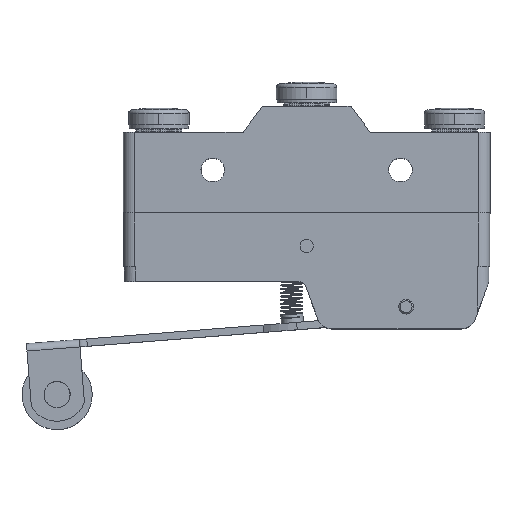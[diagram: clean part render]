
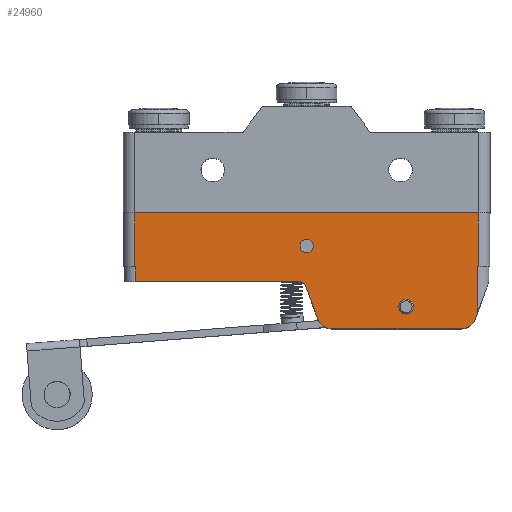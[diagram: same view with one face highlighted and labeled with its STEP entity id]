
A CAD part, top view. The second image highlights one B-rep face of the part: STEP entity #24960.
In plain terms, the highlighted planar face has unit normal (0, 0, 1).
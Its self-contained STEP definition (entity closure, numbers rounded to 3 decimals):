
#9036=CARTESIAN_POINT('',(971.554,-133.428,-3.81));
#9037=DIRECTION('',(0.,0.,1.));
#9038=DIRECTION('',(0.,-1.,0.));
#9039=AXIS2_PLACEMENT_3D('',#9036,#9037,#9038);
#9041=CARTESIAN_POINT('',(971.554,-133.428,-3.81));
#9042=DIRECTION('',(0.,0.,1.));
#9043=DIRECTION('',(0.,1.,0.));
#9044=AXIS2_PLACEMENT_3D('',#9041,#9042,#9043);
#9046=CARTESIAN_POINT('',(629.92,74.852,-3.81));
#9047=DIRECTION('',(0.,0.,1.));
#9048=DIRECTION('',(-1.,0.,0.));
#9049=AXIS2_PLACEMENT_3D('',#9046,#9047,#9048);
#9051=CARTESIAN_POINT('',(629.92,74.852,-3.81));
#9052=DIRECTION('',(0.,0.,1.));
#9053=DIRECTION('',(1.,0.,0.));
#9054=AXIS2_PLACEMENT_3D('',#9051,#9052,#9053);
#9056=CARTESIAN_POINT('',(1219.077,3.732,-3.819));
#9057=CARTESIAN_POINT('',(1218.887,3.732,-3.819));
#9058=CARTESIAN_POINT('',(1218.507,3.732,-3.806));
#9059=CARTESIAN_POINT('',(1218.125,3.732,-3.81));
#9060=CARTESIAN_POINT('',(1217.934,3.732,-3.81));
#9062=DIRECTION('',(-0.342,-0.94,0.));
#9063=VECTOR('',#9062,26.025);
#9064=CARTESIAN_POINT('',(1217.934,-151.747,-3.81));
#9065=LINE('',#9064,#9063);
#9066=CARTESIAN_POINT('',(1161.296,-158.828,-3.81));
#9067=DIRECTION('',(0.,0.,-1.));
#9068=DIRECTION('',(0.94,-0.342,0.));
#9069=AXIS2_PLACEMENT_3D('',#9066,#9067,#9068);
#9071=DIRECTION('',(-1.,0.,0.));
#9072=VECTOR('',#9071,445.525);
#9073=CARTESIAN_POINT('',(1161.296,-209.628,-3.81));
#9074=LINE('',#9073,#9072);
#9075=CARTESIAN_POINT('',(715.772,-158.828,-3.81));
#9076=DIRECTION('',(0.,0.,-1.));
#9077=DIRECTION('',(0.,-1.,0.));
#9078=AXIS2_PLACEMENT_3D('',#9075,#9076,#9077);
#9080=DIRECTION('',(-0.342,0.94,0.));
#9081=VECTOR('',#9080,119.637);
#9082=CARTESIAN_POINT('',(668.035,-176.203,-3.81));
#9083=LINE('',#9082,#9081);
#9084=CARTESIAN_POINT('',(603.249,-72.468,-3.81));
#9085=DIRECTION('',(0.,0.,1.));
#9086=DIRECTION('',(0.94,0.342,0.));
#9087=AXIS2_PLACEMENT_3D('',#9084,#9085,#9086);
#9089=DIRECTION('',(-1.,0.,0.));
#9090=VECTOR('',#9089,561.335);
#9091=CARTESIAN_POINT('',(603.249,-47.068,-3.81));
#9092=LINE('',#9091,#9090);
#9093=CARTESIAN_POINT('',(41.914,3.732,-3.81));
#9094=CARTESIAN_POINT('',(41.722,3.732,-3.81));
#9095=CARTESIAN_POINT('',(41.339,3.732,-3.806));
#9096=CARTESIAN_POINT('',(40.957,3.732,-3.819));
#9097=CARTESIAN_POINT('',(40.767,3.732,-3.819));
#9099=CARTESIAN_POINT('',(40.767,3.732,-3.819));
#9100=CARTESIAN_POINT('',(40.578,3.732,-3.819));
#9101=CARTESIAN_POINT('',(40.197,3.732,-3.793));
#9102=CARTESIAN_POINT('',(39.817,3.732,-3.836));
#9103=CARTESIAN_POINT('',(39.626,3.732,-3.836));
#9105=DIRECTION('',(1.,0.,0.));
#9106=VECTOR('',#9105,1180.592);
#9107=CARTESIAN_POINT('',(39.624,189.152,-3.81));
#9108=LINE('',#9107,#9106);
#9109=CARTESIAN_POINT('',(1220.214,3.732,-3.836));
#9110=CARTESIAN_POINT('',(1220.023,3.732,-3.836));
#9111=CARTESIAN_POINT('',(1219.645,3.732,-3.793));
#9112=CARTESIAN_POINT('',(1219.266,3.732,-3.819));
#9113=CARTESIAN_POINT('',(1219.077,3.732,-3.819));
#9179=DIRECTION('',(0.,1.,0.));
#9180=VECTOR('',#9179,155.479);
#9181=CARTESIAN_POINT('',(1217.934,-151.747,-3.81));
#9182=LINE('',#9181,#9180);
#9267=DIRECTION('',(0.,1.,0.));
#9268=VECTOR('',#9267,185.42);
#9269=CARTESIAN_POINT('',(1220.214,3.732,-3.836));
#9270=LINE('',#9269,#9268);
#9446=DIRECTION('',(0.,-1.,0.));
#9447=VECTOR('',#9446,50.8);
#9448=CARTESIAN_POINT('',(41.914,3.732,-3.81));
#9449=LINE('',#9448,#9447);
#13549=DIRECTION('',(0.,-1.,0.));
#13550=VECTOR('',#13549,185.42);
#13551=CARTESIAN_POINT('',(39.624,189.152,-3.81));
#13552=LINE('',#13551,#13550);
#14073=CARTESIAN_POINT('',(39.624,189.152,-3.81));
#14074=CARTESIAN_POINT('',(1220.216,189.152,-3.81));
#14075=VERTEX_POINT('',#14073);
#14076=VERTEX_POINT('',#14074);
#15105=CARTESIAN_POINT('',(607.06,74.852,-3.81));
#15106=CARTESIAN_POINT('',(652.78,74.852,-3.81));
#15107=VERTEX_POINT('',#15105);
#15108=VERTEX_POINT('',#15106);
#15354=CARTESIAN_POINT('',(41.914,-47.068,-3.81));
#15355=VERTEX_POINT('',#15354);
#15356=CARTESIAN_POINT('',(603.249,-47.068,-3.81));
#15357=VERTEX_POINT('',#15356);
#15358=CARTESIAN_POINT('',(627.117,-63.781,-3.81));
#15359=VERTEX_POINT('',#15358);
#15360=CARTESIAN_POINT('',(1217.934,-151.747,-3.81));
#15361=CARTESIAN_POINT('',(1209.033,-176.203,-3.81));
#15362=VERTEX_POINT('',#15360);
#15363=VERTEX_POINT('',#15361);
#15364=CARTESIAN_POINT('',(1161.296,-209.628,-3.81));
#15365=VERTEX_POINT('',#15364);
#15366=CARTESIAN_POINT('',(715.772,-209.628,-3.81));
#15367=VERTEX_POINT('',#15366);
#15368=CARTESIAN_POINT('',(668.035,-176.203,-3.81));
#15369=VERTEX_POINT('',#15368);
#15370=CARTESIAN_POINT('',(971.554,-158.828,-3.81));
#15371=CARTESIAN_POINT('',(971.554,-108.028,-3.81));
#15372=VERTEX_POINT('',#15370);
#15373=VERTEX_POINT('',#15371);
#15894=CARTESIAN_POINT('',(1220.212,3.732,
-3.878));
#15896=VERTEX_POINT('',#15894);
#15897=VERTEX_POINT('',#9113);
#15898=VERTEX_POINT('',#9060);
#15913=VERTEX_POINT('',#9093);
#15914=VERTEX_POINT('',#9097);
#15915=VERTEX_POINT('',#9103);
#24910=CARTESIAN_POINT('',(629.92,96.442,-3.81));
#24911=DIRECTION('',(0.,0.,1.));
#24912=DIRECTION('',(-1.,0.,0.));
#24913=AXIS2_PLACEMENT_3D('',#24910,#24911,#24912);
#24914=PLANE('',#24913);
#24916=ORIENTED_EDGE('',*,*,#24915,.T.);
#24918=ORIENTED_EDGE('',*,*,#24917,.F.);
#24920=ORIENTED_EDGE('',*,*,#24919,.T.);
#24922=ORIENTED_EDGE('',*,*,#24921,.T.);
#24924=ORIENTED_EDGE('',*,*,#24923,.T.);
#24926=ORIENTED_EDGE('',*,*,#24925,.T.);
#24928=ORIENTED_EDGE('',*,*,#24927,.T.);
#24930=ORIENTED_EDGE('',*,*,#24929,.T.);
#24932=ORIENTED_EDGE('',*,*,#24931,.T.);
#24934=ORIENTED_EDGE('',*,*,#24933,.F.);
#24936=ORIENTED_EDGE('',*,*,#24935,.T.);
#24938=ORIENTED_EDGE('',*,*,#24937,.T.);
#24940=ORIENTED_EDGE('',*,*,#24939,.F.);
#24941=ORIENTED_EDGE('',*,*,#16028,.T.);
#24943=ORIENTED_EDGE('',*,*,#24942,.F.);
#24945=ORIENTED_EDGE('',*,*,#24944,.T.);
#24946=EDGE_LOOP('',(#24916,#24918,#24920,#24922,#24924,#24926,#24928,#24930,
#24932,#24934,#24936,#24938,#24940,#24941,#24943,#24945));
#24947=FACE_OUTER_BOUND('',#24946,.F.);
#24949=ORIENTED_EDGE('',*,*,#24948,.T.);
#24951=ORIENTED_EDGE('',*,*,#24950,.T.);
#24952=EDGE_LOOP('',(#24949,#24951));
#24953=FACE_BOUND('',#24952,.F.);
#24955=ORIENTED_EDGE('',*,*,#24954,.T.);
#24957=ORIENTED_EDGE('',*,*,#24956,.T.);
#24958=EDGE_LOOP('',(#24955,#24957));
#24959=FACE_BOUND('',#24958,.F.);
#24960=ADVANCED_FACE('',(#24947,#24953,#24959),#24914,.T.);
#9040=CIRCLE('',#9039,25.4);
#9045=CIRCLE('',#9044,25.4);
#9050=CIRCLE('',#9049,22.86);
#9055=CIRCLE('',#9054,22.86);
#9061=B_SPLINE_CURVE_WITH_KNOTS('',3,(#9056,#9057,#9058,#9059,#9060),
.UNSPECIFIED.,.F.,.F.,(4,1,4),(0.,0.5,1.),.UNSPECIFIED.);
#9070=CIRCLE('',#9069,50.8);
#9079=CIRCLE('',#9078,50.8);
#9088=CIRCLE('',#9087,25.4);
#9098=B_SPLINE_CURVE_WITH_KNOTS('',3,(#9093,#9094,#9095,#9096,#9097),
.UNSPECIFIED.,.F.,.F.,(4,1,4),(0.,0.5,1.),.UNSPECIFIED.);
#9104=B_SPLINE_CURVE_WITH_KNOTS('',3,(#9099,#9100,#9101,#9102,#9103),
.UNSPECIFIED.,.F.,.F.,(4,1,4),(0.,0.5,1.),.UNSPECIFIED.);
#9114=B_SPLINE_CURVE_WITH_KNOTS('',3,(#9109,#9110,#9111,#9112,#9113),
.UNSPECIFIED.,.F.,.F.,(4,1,4),(0.,0.5,1.),.UNSPECIFIED.);
#16028=EDGE_CURVE('',#14075,#14076,#9108,.T.);
#24915=EDGE_CURVE('',#15897,#15898,#9061,.T.);
#24917=EDGE_CURVE('',#15362,#15898,#9182,.T.);
#24919=EDGE_CURVE('',#15362,#15363,#9065,.T.);
#24921=EDGE_CURVE('',#15363,#15365,#9070,.T.);
#24923=EDGE_CURVE('',#15365,#15367,#9074,.T.);
#24925=EDGE_CURVE('',#15367,#15369,#9079,.T.);
#24927=EDGE_CURVE('',#15369,#15359,#9083,.T.);
#24929=EDGE_CURVE('',#15359,#15357,#9088,.T.);
#24931=EDGE_CURVE('',#15357,#15355,#9092,.T.);
#24933=EDGE_CURVE('',#15913,#15355,#9449,.T.);
#24935=EDGE_CURVE('',#15913,#15914,#9098,.T.);
#24937=EDGE_CURVE('',#15914,#15915,#9104,.T.);
#24939=EDGE_CURVE('',#14075,#15915,#13552,.T.);
#24942=EDGE_CURVE('',#15896,#14076,#9270,.T.);
#24944=EDGE_CURVE('',#15896,#15897,#9114,.T.);
#24948=EDGE_CURVE('',#15107,#15108,#9050,.T.);
#24950=EDGE_CURVE('',#15108,#15107,#9055,.T.);
#24954=EDGE_CURVE('',#15372,#15373,#9040,.T.);
#24956=EDGE_CURVE('',#15373,#15372,#9045,.T.);
